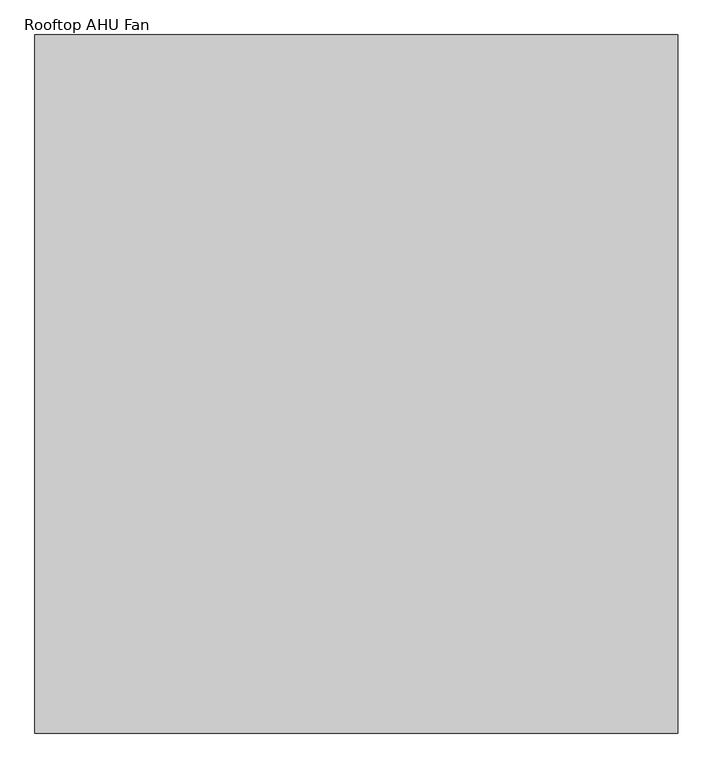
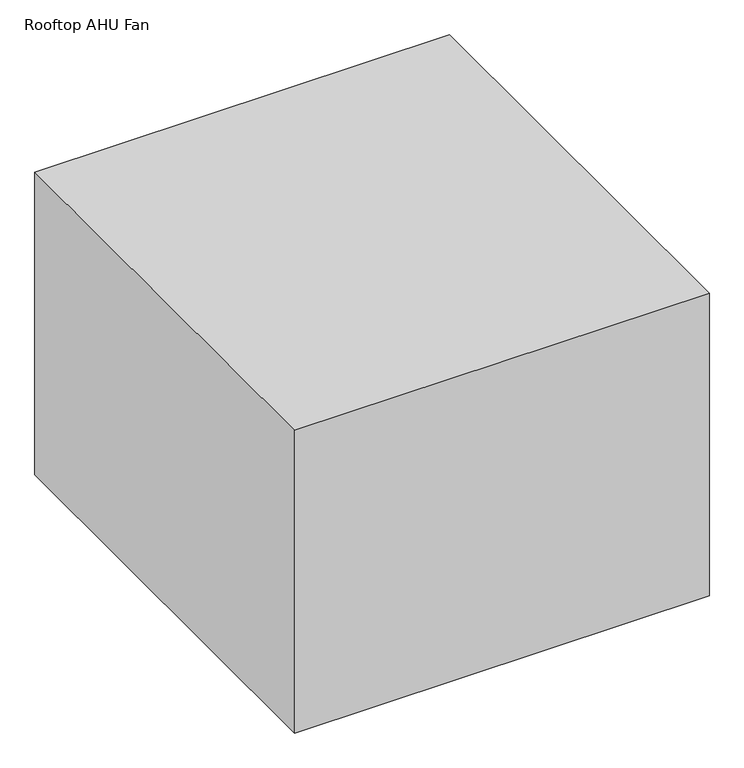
"""IFC4 building model written with IfcOpenShell, lengths in millimetres: proxy geometry, Rooftop AHU Fan : Forward Curved Fan - 3,300 L/s."""

from ifc_helpers import new_model, si_unit, origin, origin_with_axes, place, context, project, spatial, polyline, outline, extrude, source, transform, mapped, element, save


def rooftop_ahu_fan_31743b31(model_context):
    return source(origin(), model_context, "Body", "SweptSolid", [
        extrude(outline(polyline([(0.0, 1900.0), (0.0, 0.0), (-1750.0, 0.0), (-1750.0, 1900.0), (0.0, 1900.0)])), origin_with_axes(), (0.0, 0.0, 1.0), 1350.0),
    ])


if __name__ == "__main__":
    model = new_model("IFC4")
    model_context = context("Model", 3, world=origin())
    ifc_project = project(units=[si_unit("LENGTHUNIT", "METRE", prefix="MILLI")], contexts=[model_context])
    site = spatial("IfcSite", under=ifc_project)
    building = spatial("IfcBuilding", under=site)
    placement = place(None, origin())
    rooftop_ahu_fan_shape = rooftop_ahu_fan_31743b31(model_context)
    element("IfcBuildingElementProxy", 1, Name="Rooftop AHU Fan : Forward Curved Fan - 3,300 L/s", ObjectType="Rooftop AHU Fan : Forward Curved Fan - 3,300 L/s", at=placement, inside=building, context=model_context, shape_type="MappedRepresentation", body=[
        mapped(rooftop_ahu_fan_shape, transform((0.0, 0.0, 0.0), x_axis=(1.0, 0.0, 0.0), y_axis=(0.0, 1.0, 0.0), z_axis=(0.0, 0.0, 1.0))),
    ])
    save(model, "model.ifc")
